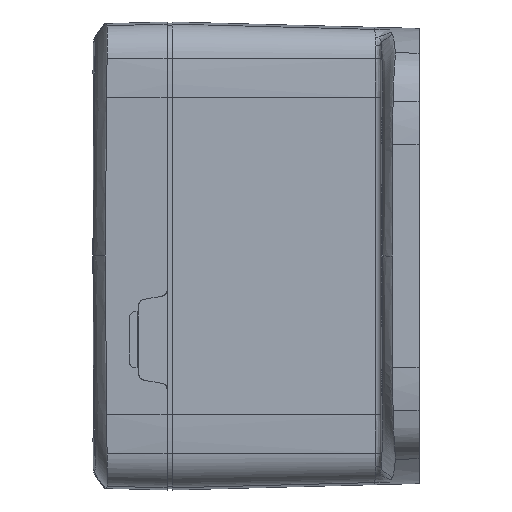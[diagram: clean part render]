
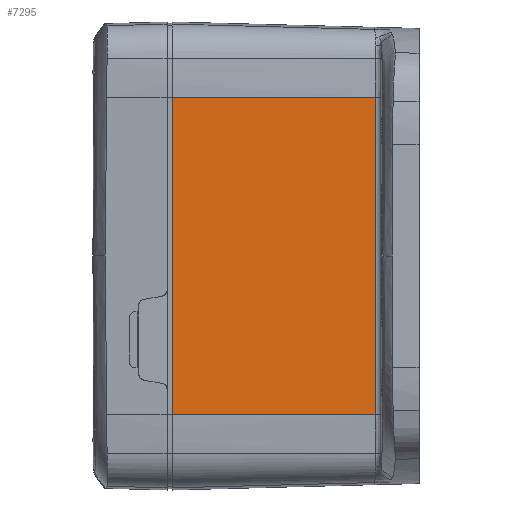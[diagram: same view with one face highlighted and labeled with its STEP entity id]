
A CAD part, left-side view. The second image highlights one B-rep face of the part: STEP entity #7295.
In plain terms, the highlighted planar face has unit normal (-1, -0.026, 0).
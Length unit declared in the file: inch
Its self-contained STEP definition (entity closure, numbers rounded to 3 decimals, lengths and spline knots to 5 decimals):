
#1442 = CARTESIAN_POINT ( 'NONE',  ( -1.625, 1.715, -1.10211 ) ) ;
#3314 = VERTEX_POINT ( 'NONE', #74762 ) ;
#5645 = EDGE_CURVE ( 'NONE', #3314, #23303, #106476, .T. ) ;
#7295 = ADVANCED_FACE ( 'Face2', ( #12783 ), #42196, .T. ) ;
#9410 = CARTESIAN_POINT ( 'NONE',  ( -1.625, 1.715, -1.10211 ) ) ;
#10813 = DIRECTION ( 'NONE',  ( 0.026, -1., 0. ) ) ;
#12783 = FACE_OUTER_BOUND ( 'NONE', #124370, .T. ) ;
#16971 = VECTOR ( 'NONE', #107186, 39.37008 ) ;
#23303 = VERTEX_POINT ( 'NONE', #107825 ) ;
#25783 = LINE ( 'NONE', #27109, #16971 ) ;
#27109 = CARTESIAN_POINT ( 'NONE',  ( -1.625, 1.715, -1.10211 ) ) ;
#29795 = CARTESIAN_POINT ( 'NONE',  ( -1.625, 1.715, 1.10211 ) ) ;
#37540 = ORIENTED_EDGE ( 'NONE', *, *, #101178, .F. ) ;
#38069 = CARTESIAN_POINT ( 'NONE',  ( -1.625, 1.715, -1.10211 ) ) ;
#42196 = PLANE ( 'NONE',  #87058 ) ;
#43220 = LINE ( 'NONE', #105255, #124285 ) ;
#45118 = CARTESIAN_POINT ( 'NONE',  ( -1.58803, 0.30312, -1.10211 ) ) ;
#48092 = DIRECTION ( 'NONE',  ( 0.026, -1., 0. ) ) ;
#55252 = DIRECTION ( 'NONE',  ( 0.026, -1., 0. ) ) ;
#57556 = ORIENTED_EDGE ( 'NONE', *, *, #5645, .T. ) ;
#66458 = VECTOR ( 'NONE', #48092, 39.37008 ) ;
#70235 = EDGE_CURVE ( 'NONE', #92113, #3314, #76160, .T. ) ;
#74762 = CARTESIAN_POINT ( 'NONE',  ( -1.58803, 0.30312, -1.10211 ) ) ;
#74858 = ORIENTED_EDGE ( 'NONE', *, *, #96339, .F. ) ;
#75972 = VECTOR ( 'NONE', #127793, 39.37008 ) ;
#76160 = LINE ( 'NONE', #38069, #66458 ) ;
#77753 = VERTEX_POINT ( 'NONE', #29795 ) ;
#78158 = ORIENTED_EDGE ( 'NONE', *, *, #70235, .T. ) ;
#87058 = AXIS2_PLACEMENT_3D ( 'NONE', #1442, #112256, #10813 ) ;
#92113 = VERTEX_POINT ( 'NONE', #9410 ) ;
#96339 = EDGE_CURVE ( 'NONE', #92113, #77753, #25783, .T. ) ;
#101178 = EDGE_CURVE ( 'NONE', #77753, #23303, #43220, .T. ) ;
#105255 = CARTESIAN_POINT ( 'NONE',  ( -1.625, 1.715, 1.10211 ) ) ;
#106476 = LINE ( 'NONE', #45118, #75972 ) ;
#107186 = DIRECTION ( 'NONE',  ( 0., 0., 1. ) ) ;
#107825 = CARTESIAN_POINT ( 'NONE',  ( -1.58803, 0.30312, 1.10211 ) ) ;
#112256 = DIRECTION ( 'NONE',  ( -1., -0.026, 0. ) ) ;
#124285 = VECTOR ( 'NONE', #55252, 39.37008 ) ;
#124370 = EDGE_LOOP ( 'NONE', ( #78158, #57556, #37540, #74858 ) ) ;
#127793 = DIRECTION ( 'NONE',  ( 0., 0., 1. ) ) ;
